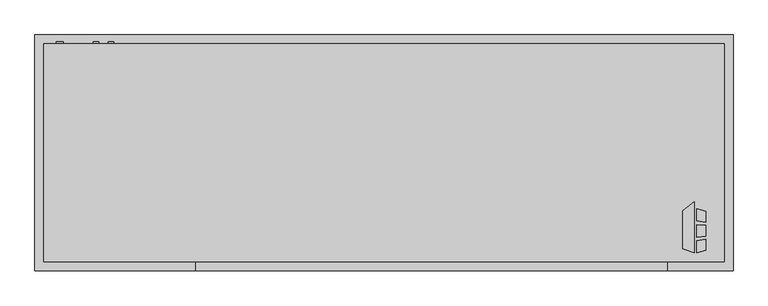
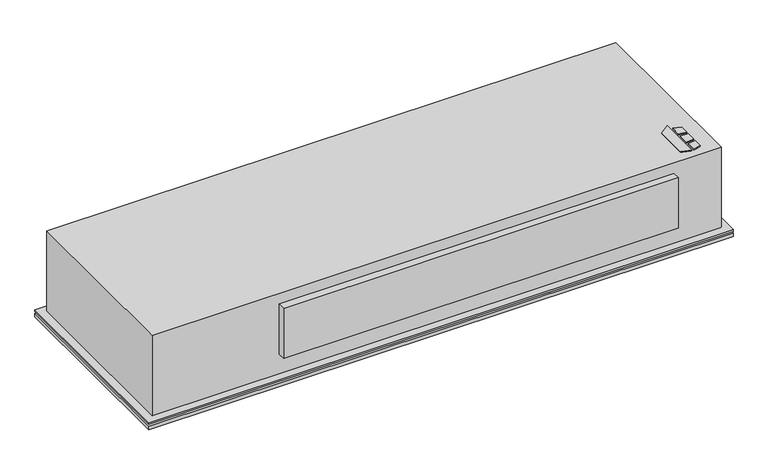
"""IFC4 building model written with IfcOpenShell, lengths in millimetres: proxy geometry, Horizontal_Telescoping_Fan_Coil_Unit_-_CBY_-_IEC_-_2-Pipe_Cool-EHeat_LH_2022 : Size 10 - 277v/60Hz/1Ph - 4 Row 8.0kW."""

from ifc_helpers import new_model, si_unit, point, frame, frame_2d, origin, origin_with_axes, place, context, project, spatial, polyline, circle_curve, trimmed, segment, composite_curve, outline, extrude, source, transform, mapped, element, save


def mechanical_equipment_09d2879e(model_context):
    return source(origin(), model_context, "Body", "SweptSolid", [
        extrude(outline(polyline([(988.7019761, -401.0078476), (1021.2602728, -375.5705184), (1021.2602728, -517.525), (988.7019761, -507.3054201), (988.7019761, -401.0078476)])), origin_with_axes(), (0.0, 0.0, 1.0), 3.175),
        extrude(outline(polyline([(1028.0186058, -428.879852), (1028.0186058, -394.3999379), (1054.1, -402.5865115), (1054.1, -432.0822446), (1028.0186058, -428.879852)])), origin_with_axes(), (0.0, 0.0, 1.0), 3.175),
        extrude(outline(polyline([(1054.1, -510.5365115), (1028.0186058, -517.525), (1028.0186058, -484.3036996), (1054.1, -480.7618564), (1054.1, -510.5365115)])), origin_with_axes(), (0.0, 0.0, 1.0), 3.175),
        extrude(outline(polyline([(1054.1, -441.1638277), (1054.1, -472.413983), (1028.0186058, -475.155248), (1028.0186058, -439.2975378), (1054.1, -441.1638277)])), origin_with_axes(), (0.0, 0.0, 1.0), 3.175),
        extrude(outline(composite_curve([segment(trimmed(circle_curve(frame_2d((-55.9967777, -612.775)), 7.9375), [point((-55.9967777, -604.8375))], [point((-55.9967777, -620.7125))], False, "CARTESIAN"), True, "CONTINUOUS"), segment(trimmed(circle_curve(frame_2d((-55.9967777, -612.775)), 7.9375), [point((-55.9967777, -620.7125))], [point((-55.9967777, -604.8375))], False, "CARTESIAN"), True, "CONTINUOUS")], self_intersect=False)), frame((0.0, 66.675, 0.0), z_axis=(0.0, 1.0, 0.0), x_axis=(0.0, 0.0, 1.0)), (0.0, 0.0, 1.0), 6.35),
        extrude(outline(composite_curve([segment(trimmed(circle_curve(frame_2d((-122.5981268, -654.05)), 7.9375), [point((-122.5981268, -646.1125))], [point((-122.5981268, -661.9875))], False, "CARTESIAN"), True, "CONTINUOUS"), segment(trimmed(circle_curve(frame_2d((-122.5981268, -654.05)), 7.9375), [point((-122.5981268, -661.9875))], [point((-122.5981268, -646.1125))], False, "CARTESIAN"), True, "CONTINUOUS")], self_intersect=False)), frame((0.0, 66.675, 0.0), z_axis=(0.0, 1.0, 0.0), x_axis=(0.0, 0.0, 1.0)), (0.0, 0.0, 1.0), 6.35),
        extrude(outline(composite_curve([segment(trimmed(circle_curve(frame_2d((-247.6037358, -755.65)), 9.525), [point((-247.6037358, -746.125))], [point((-247.6037358, -765.175))], False, "CARTESIAN"), True, "CONTINUOUS"), segment(trimmed(circle_curve(frame_2d((-247.6037358, -755.65)), 9.525), [point((-247.6037358, -765.175))], [point((-247.6037358, -746.125))], False, "CARTESIAN"), True, "CONTINUOUS")], self_intersect=False)), frame((0.0, 66.675, 0.0), z_axis=(0.0, 1.0, 0.0), x_axis=(0.0, 0.0, 1.0)), (0.0, 0.0, 1.0), 6.35),
        extrude(outline(polyline([(1130.3, 92.075), (1130.3, -568.325), (-825.5, -568.325), (-825.5, 92.075), (1130.3, 92.075)])), frame((0.0, 0.0, -311.15), z_axis=(0.0, 0.0, 1.0), x_axis=(1.0, 0.0, 0.0)), (0.0, 0.0, 1.0), 12.7),
        extrude(outline(polyline([(1130.3, 92.075), (1130.3, -568.325), (-825.5, -568.325), (-825.5, 92.075), (1130.3, 92.075)])), frame((0.0, 0.0, -292.1), z_axis=(0.0, 0.0, 1.0), x_axis=(1.0, 0.0, 0.0)), (0.0, 0.0, 1.0), 6.35),
        extrude(outline(polyline([(1104.9, 66.675), (1104.9, -542.925), (-800.1, -542.925), (-800.1, 66.675), (1104.9, 66.675)])), frame((0.0, 0.0, -298.45), z_axis=(0.0, 0.0, 1.0), x_axis=(1.0, 0.0, 0.0)), (0.0, 0.0, 1.0), 6.35),
        extrude(outline(polyline([(946.15, -568.325), (-374.65, -568.325), (-374.65, -542.925), (946.15, -542.925), (946.15, -568.325)])), frame((0.0, 0.0, -215.9), z_axis=(0.0, 0.0, 1.0), x_axis=(1.0, 0.0, 0.0)), (0.0, 0.0, 1.0), 177.8),
        extrude(outline(polyline([(-800.1, 66.675), (1104.9, 66.675), (1104.9, -542.925), (-800.1, -542.925), (-800.1, 66.675)])), frame((0.0, 0.0, -285.75), z_axis=(0.0, 0.0, 1.0), x_axis=(1.0, 0.0, 0.0)), (0.0, 0.0, 1.0), 285.75),
        extrude(outline(polyline([(939.8, -9.525), (939.8, -263.525), (-635.0, -263.525), (-635.0, -9.525), (939.8, -9.525)])), frame((0.0, 0.0, -317.5), z_axis=(0.0, 0.0, 1.0), x_axis=(1.0, 0.0, 0.0)), (0.0, 0.0, 1.0), 6.35),
    ])


if __name__ == "__main__":
    model = new_model("IFC4")
    model_context = context("Model", 3, world=origin())
    ifc_project = project(units=[si_unit("LENGTHUNIT", "METRE", prefix="MILLI")], contexts=[model_context])
    site = spatial("IfcSite", under=ifc_project)
    building = spatial("IfcBuilding", under=site)
    placement = place(None, origin())
    mechanical_equipment_shape = mechanical_equipment_09d2879e(model_context)
    element("IfcBuildingElementProxy", 1, Name="Horizontal_Telescoping_Fan_Coil_Unit_-_CBY_-_IEC_-_2-Pipe_Cool-EHeat_LH_2022 : Size 10 - 277v/60Hz/1Ph - 4 Row 8.0kW", ObjectType="Horizontal_Telescoping_Fan_Coil_Unit_-_CBY_-_IEC_-_2-Pipe_Cool-EHeat_LH_2022 : Size 10 - 277v/60Hz/1Ph - 4 Row 8.0kW", at=placement, inside=building, context=model_context, shape_type="MappedRepresentation", body=[
        mapped(mechanical_equipment_shape, transform((0.0, 0.0, 0.0), x_axis=(1.0, 0.0, 0.0), y_axis=(0.0, 1.0, 0.0), z_axis=(0.0, 0.0, 1.0))),
    ])
    save(model, "model.ifc")
